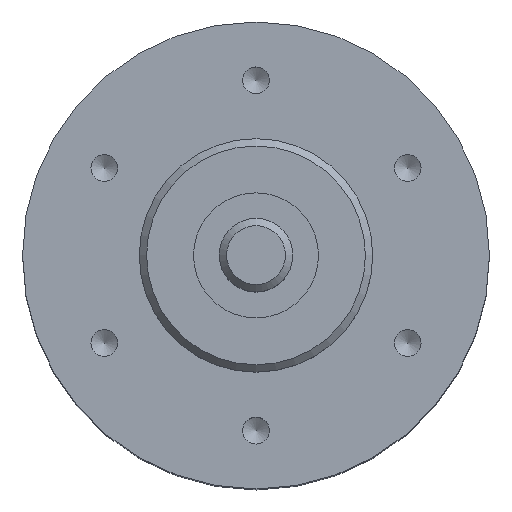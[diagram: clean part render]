
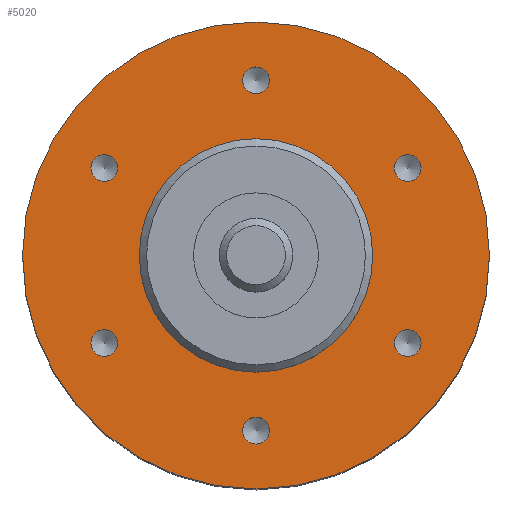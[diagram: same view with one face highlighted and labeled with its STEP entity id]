
A CAD part, top view. The second image highlights one B-rep face of the part: STEP entity #5020.
In plain terms, the highlighted planar face has unit normal (0, 0, 1).
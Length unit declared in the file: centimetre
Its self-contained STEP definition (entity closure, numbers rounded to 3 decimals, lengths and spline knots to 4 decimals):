
#1742=PLANE('',#5326);
#1962=CIRCLE('',#5279,0.1825);
#1964=CIRCLE('',#5283,0.1825);
#1966=CIRCLE('',#5287,0.1825);
#1968=CIRCLE('',#5291,0.1825);
#1970=CIRCLE('',#5295,0.1825);
#1972=CIRCLE('',#5299,0.1825);
#1986=CIRCLE('',#5325,3.175);
#1987=CIRCLE('',#5327,1.5875);
#2239=EDGE_CURVE('',#4218,#4218,#1962,.T.);
#2241=EDGE_CURVE('',#4221,#4221,#1964,.T.);
#2243=EDGE_CURVE('',#4224,#4224,#1966,.T.);
#2245=EDGE_CURVE('',#4227,#4227,#1968,.T.);
#2247=EDGE_CURVE('',#4230,#4230,#1970,.T.);
#2249=EDGE_CURVE('',#4233,#4233,#1972,.T.);
#2263=EDGE_CURVE('',#4247,#4247,#1986,.T.);
#2264=EDGE_CURVE('',#4248,#4248,#1987,.T.);
#2806=ORIENTED_EDGE('',*,*,#2239,.T.);
#2807=ORIENTED_EDGE('',*,*,#2241,.T.);
#2808=ORIENTED_EDGE('',*,*,#2243,.T.);
#2809=ORIENTED_EDGE('',*,*,#2245,.T.);
#2810=ORIENTED_EDGE('',*,*,#2247,.T.);
#2811=ORIENTED_EDGE('',*,*,#2249,.T.);
#2812=ORIENTED_EDGE('',*,*,#2264,.F.);
#2813=ORIENTED_EDGE('',*,*,#2263,.T.);
#3858=EDGE_LOOP('',(#2806));
#3859=EDGE_LOOP('',(#2807));
#3860=EDGE_LOOP('',(#2808));
#3861=EDGE_LOOP('',(#2809));
#3862=EDGE_LOOP('',(#2810));
#3863=EDGE_LOOP('',(#2811));
#3864=EDGE_LOOP('',(#2812));
#3865=EDGE_LOOP('',(#2813));
#4218=VERTEX_POINT('',#5855);
#4221=VERTEX_POINT('',#5862);
#4224=VERTEX_POINT('',#5869);
#4227=VERTEX_POINT('',#5876);
#4230=VERTEX_POINT('',#5883);
#4233=VERTEX_POINT('',#5890);
#4247=VERTEX_POINT('',#5930);
#4248=VERTEX_POINT('',#5933);
#4644=FACE_BOUND('',#3858,.T.);
#4645=FACE_BOUND('',#3859,.T.);
#4646=FACE_BOUND('',#3860,.T.);
#4647=FACE_BOUND('',#3861,.T.);
#4648=FACE_BOUND('',#3862,.T.);
#4649=FACE_BOUND('',#3863,.T.);
#4650=FACE_BOUND('',#3864,.T.);
#4651=FACE_BOUND('',#3865,.T.);
#5020=ADVANCED_FACE('',(#4644,#4645,#4646,#4647,#4648,#4649,#4650,#4651),
#1742,.T.);
#5279=AXIS2_PLACEMENT_3D('',#5854,#7235,#7236);
#5283=AXIS2_PLACEMENT_3D('',#5861,#7243,#7244);
#5287=AXIS2_PLACEMENT_3D('',#5868,#7251,#7252);
#5291=AXIS2_PLACEMENT_3D('',#5875,#7259,#7260);
#5295=AXIS2_PLACEMENT_3D('',#5882,#7267,#7268);
#5299=AXIS2_PLACEMENT_3D('',#5889,#7275,#7276);
#5325=AXIS2_PLACEMENT_3D('',#5929,#7321,#7322);
#5326=AXIS2_PLACEMENT_3D('',#5931,#7323,$);
#5327=AXIS2_PLACEMENT_3D('',#5932,#7324,#7325);
#5854=CARTESIAN_POINT('',(2.0622,1.1906,0.762));
#5855=CARTESIAN_POINT('',(2.0622,1.3731,0.762));
#5861=CARTESIAN_POINT('',(2.0622,-1.1906,0.762));
#5862=CARTESIAN_POINT('',(2.0622,-1.0081,0.762));
#5868=CARTESIAN_POINT('',(0.,-2.3813,0.762));
#5869=CARTESIAN_POINT('',(0.,-2.1988,0.762));
#5875=CARTESIAN_POINT('',(-2.0622,-1.1906,0.762));
#5876=CARTESIAN_POINT('',(-2.0622,-1.0081,0.762));
#5882=CARTESIAN_POINT('',(-2.0622,1.1906,0.762));
#5883=CARTESIAN_POINT('',(-2.0622,1.3731,0.762));
#5889=CARTESIAN_POINT('',(0.,2.3813,0.762));
#5890=CARTESIAN_POINT('',(0.,2.5637,0.762));
#5929=CARTESIAN_POINT('',(0.,0.,0.762));
#5930=CARTESIAN_POINT('',(0.,3.175,0.762));
#5931=CARTESIAN_POINT('',(0.,2.3813,0.762));
#5932=CARTESIAN_POINT('',(0.,0.,0.762));
#5933=CARTESIAN_POINT('',(0.,1.5875,0.762));
#7235=DIRECTION('',(0.,0.,-1.));
#7236=DIRECTION('',(0.,0.182,0.));
#7243=DIRECTION('',(0.,0.,-1.));
#7244=DIRECTION('',(0.,0.182,0.));
#7251=DIRECTION('',(0.,0.,-1.));
#7252=DIRECTION('',(0.,0.182,0.));
#7259=DIRECTION('',(0.,0.,-1.));
#7260=DIRECTION('',(0.,0.182,0.));
#7267=DIRECTION('',(0.,0.,-1.));
#7268=DIRECTION('',(0.,0.182,0.));
#7275=DIRECTION('',(0.,0.,-1.));
#7276=DIRECTION('',(0.,0.182,0.));
#7321=DIRECTION('',(0.,0.,1.));
#7322=DIRECTION('',(0.,3.175,0.));
#7323=DIRECTION('',(0.,0.,1.));
#7324=DIRECTION('',(0.,0.,1.));
#7325=DIRECTION('',(0.,1.588,0.));
